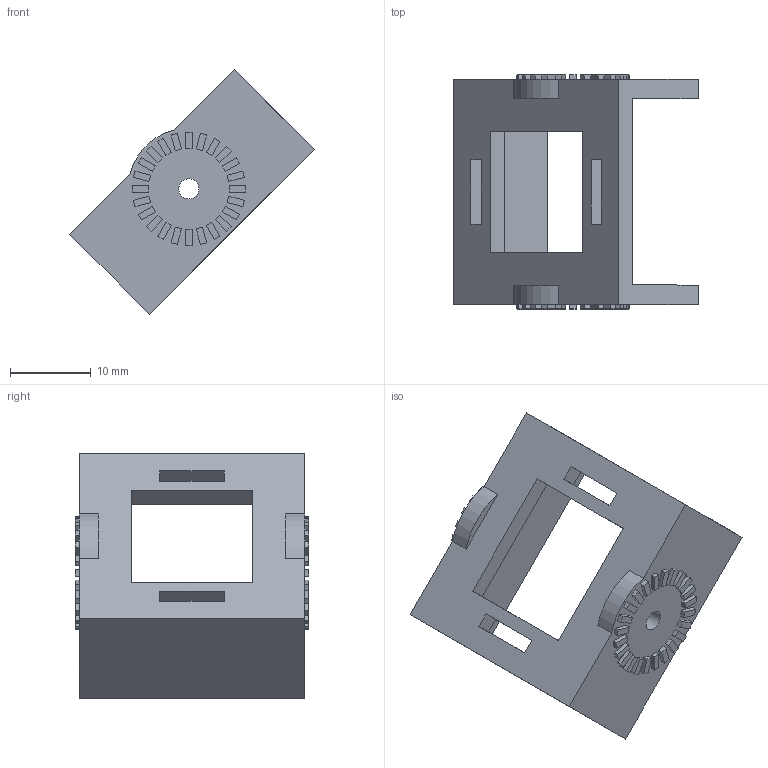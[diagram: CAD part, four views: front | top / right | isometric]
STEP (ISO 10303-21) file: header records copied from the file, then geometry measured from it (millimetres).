
FILE_DESCRIPTION(('Open CASCADE Model'),'2;1');
FILE_NAME('Open CASCADE Shape Model','2026-10-11T20:53:55',('Author'),( 'Open CASCADE'),'Open CASCADE STEP processor 7.8','Open CASCADE 7.8' ,'Unknown');
FILE_SCHEMA(('AUTOMOTIVE_DESIGN { 1 0 10303 214 1 1 1 1 }'));
Length unit declared in the file: millimetre
Products named in the file (1): Open CASCADE STEP translator 7.8 8
Bounding box: 30.19 x 28.9 x 30.19 mm (x, y, z)
Volume: 3547.6 mm3; surface area: 3678.4 mm2
Topology: 1 solids, 1 shells, 268 faces, 654 edges, 436 vertices
Faces by surface type: plane 264, cylinder 4
Full cylindrical faces by diameter (mm): 2.5 x2
Entity records: 16238 total; most frequent: CARTESIAN_POINT 2667, DIRECTION 2508, LINE 1946, VECTOR 1946, ORIENTED_EDGE 1308, PCURVE 1308, DEFINITIONAL_REPRESENTATION 1308, EDGE_CURVE 654
